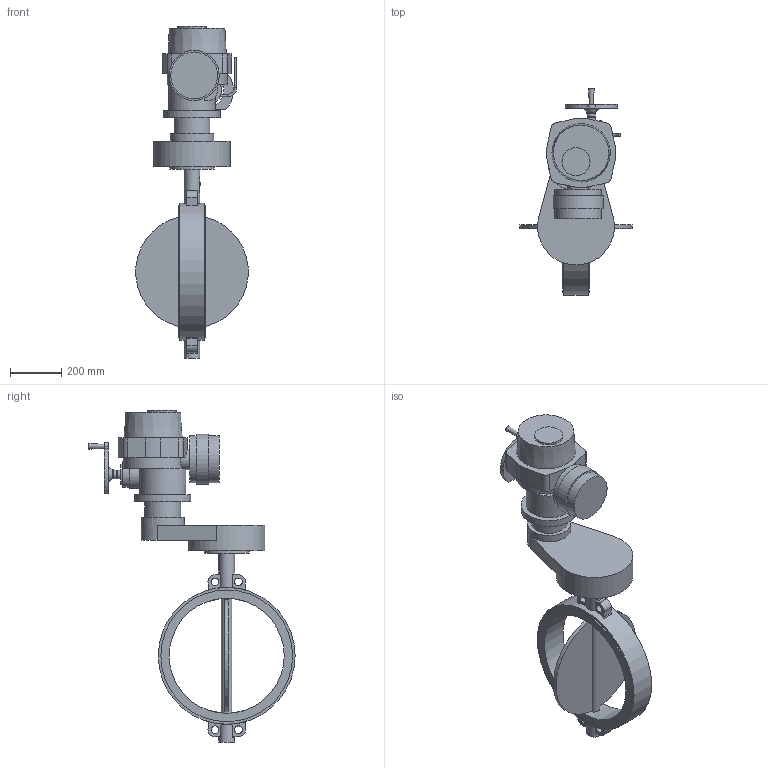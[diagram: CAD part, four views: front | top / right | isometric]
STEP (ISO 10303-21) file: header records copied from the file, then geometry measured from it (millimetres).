
FILE_DESCRIPTION(('STEP AP203'), '1');
FILE_NAME('青蜮铕 017W.YS_DN450_PN16_QT.A 200', '', ('UNSPECIFIED'), ('UNSPECIFIED'), 'ASCON STEP Converter 1.6', 'ASCON Math Kernel', '');
FILE_SCHEMA(('CONFIG_CONTROL_DESIGN'));
Length unit declared in the file: millimetre
Bounding box: 438.83 x 806.5 x 1298 mm (x, y, z)
Volume: 40155661.3 mm3; surface area: 1842273.3 mm2
Topology: 1 solids, 1 shells, 212 faces, 482 edges, 316 vertices
Faces by surface type: plane 117, cylinder 87, torus 5, cone 3
Full cylindrical faces by diameter (mm): 10 x2, 14 x12, 16 x1, 17.5 x4, 18 x4, 30 x4, 32 x2, 35 x1, 41 x1, 61 x2, 80 x2, 100 x1, 110 x1, 140 x1, 170 x1, 175 x1, 180 x1, 183 x2, 196 x1, 220 x1, 300 x1, 450 x1, 515 x2, 535 x1
Entity records: 9290 total; most frequent: CARTESIAN_POINT 2790, DIRECTION 1047, ORIENTED_EDGE 856, AXIS2_PLACEMENT_3D 436, EDGE_CURVE 428, EDGE_LOOP 328, VERTEX_POINT 316, FACE_BOUND 232
